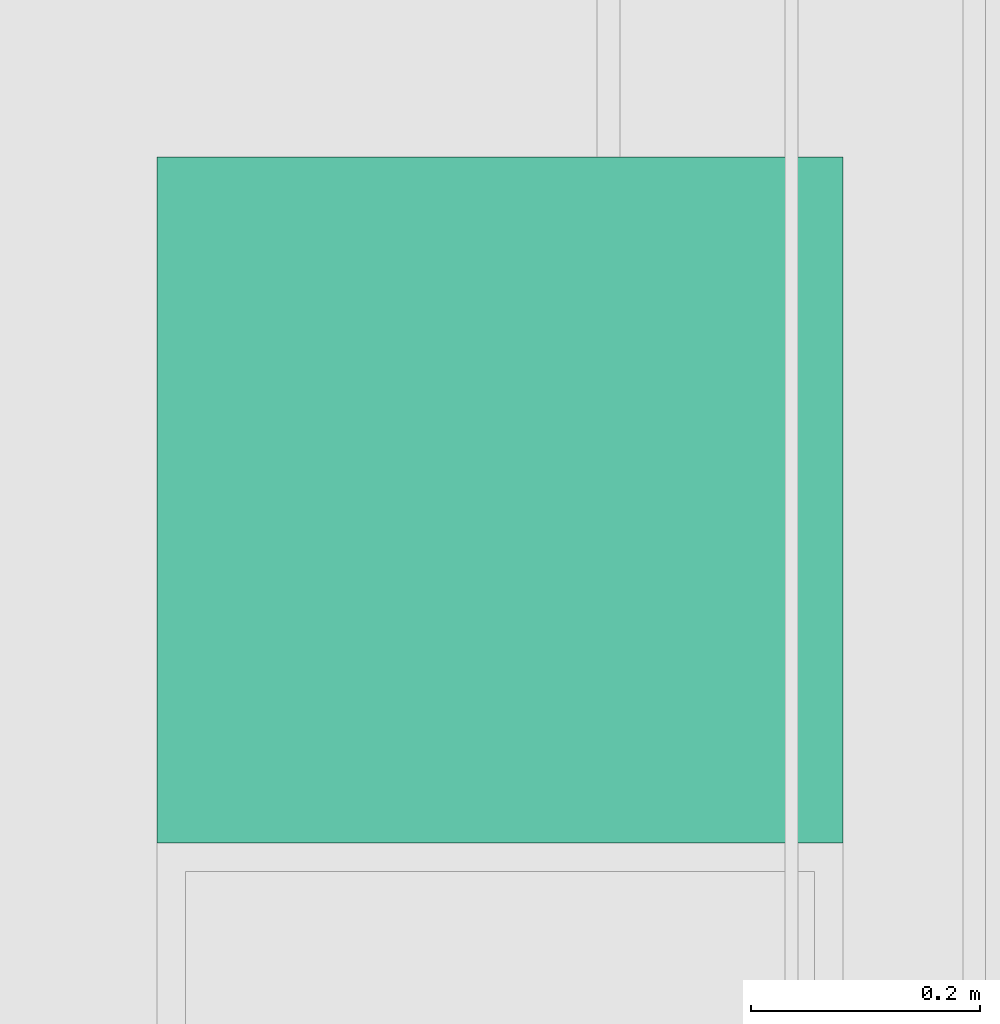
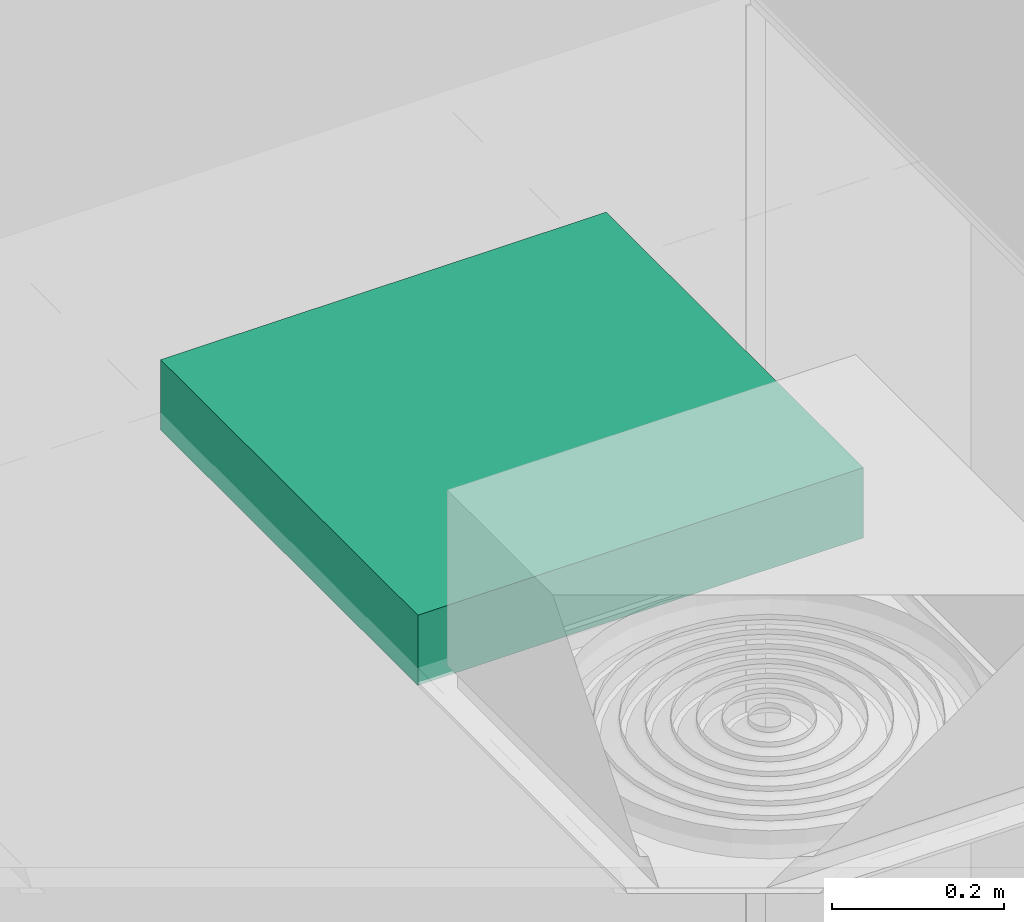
# One storey, part 279 of 347: 1 flow terminal.
"""IFC2X3 building model written with IfcOpenShell, lengths in millimetres."""

from ifc_helpers import new_model, entity, si_unit, converted_unit, derived_unit, money_unit, direction, frame, origin_with_axes, place, context, subcontext, project, spatial, open_shell, faceted_brep, surface_model, source, transform, mapped, type_object, type_shapes, element, save


model = new_model("IFC2X3")

# Units and contexts
model_context = context("Model", 3, precision=0.01, world=origin_with_axes(), true_north=direction((0.0, 1.0)))
plan_context = context("Plan", 3, precision=0.01, world=origin_with_axes(), true_north=direction((0.0, 1.0)))
body_context = subcontext(model_context, "Body", "Model", "MODEL_VIEW")
ifc_project = project(units=[si_unit("LENGTHUNIT", "METRE", prefix="MILLI"), si_unit("AREAUNIT", "SQUARE_METRE"), si_unit("VOLUMEUNIT", "CUBIC_METRE"), converted_unit("PLANEANGLEUNIT", "DEGREE", entity("IfcPlaneAngleMeasure", 0.0174532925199), si_unit("PLANEANGLEUNIT", "RADIAN"), dimensions=[0, 0, 0, 0, 0, 0, 0]), money_unit("EUR"), converted_unit("TIMEUNIT", "Year", entity("IfcTimeMeasure", 31556926.0), si_unit("TIMEUNIT", "SECOND"), dimensions=[0, 0, 1, 0, 0, 0, 0]), si_unit("MASSUNIT", "GRAM", prefix="KILO"), si_unit("THERMODYNAMICTEMPERATUREUNIT", "DEGREE_CELSIUS"), si_unit("LUMINOUSINTENSITYUNIT", "LUMEN"), si_unit("ENERGYUNIT", "JOULE", prefix="MEGA"), derived_unit("THERMALCONDUCTANCEUNIT", [(si_unit("POWERUNIT", "WATT"), 1), (si_unit("LENGTHUNIT", "METRE"), -1), (si_unit("THERMODYNAMICTEMPERATUREUNIT", "KELVIN"), -1)]), derived_unit("SPECIFICHEATCAPACITYUNIT", [(si_unit("ENERGYUNIT", "JOULE"), 1), (si_unit("MASSUNIT", "GRAM", prefix="KILO"), -1), (si_unit("THERMODYNAMICTEMPERATUREUNIT", "KELVIN"), -1)]), derived_unit("MASSDENSITYUNIT", [(si_unit("MASSUNIT", "GRAM", prefix="KILO"), 1), (si_unit("VOLUMEUNIT", "CUBIC_METRE"), -1)])], contexts=[model_context, plan_context])

# Site, building, storey
site_placement = place(None, origin_with_axes())
site = spatial("IfcSite", under=ifc_project, at=site_placement, Name="Site", CompositionType="ELEMENT")
building_placement = place(site_placement, origin_with_axes())
building = spatial("IfcBuilding", under=site, at=building_placement, Name="Naam gebouw", CompositionType="ELEMENT")
storey_placement = place(building_placement, origin_with_axes())
storey = spatial("IfcBuildingStorey", under=building, at=storey_placement, Name="begane grond", CompositionType="ELEMENT", Elevation=0.0)

# Flow terminal
lamp_type = type_object("IfcLampType", Name="TL plafond 25", PredefinedType="NOTDEFINED")
shared_shape = source(origin_with_axes(), body_context, "Body", "SurfaceModel", [
    faceted_brep([(0.0, 0.0, -100.0), (600.0, 0.0, -100.0), (600.0, 0.0, 0.0), (0.0, 0.0, 0.0), (0.0, 600.0, -100.0), (600.0, 600.0, -100.0), (40.0, 40.0, -100.0), (560.0, 40.0, -100.0), (560.0, 560.0, -100.0), (40.0, 560.0, -100.0), (600.0, 600.0, 0.0), (0.0, 600.0, 0.0), (40.0, 40.0, 0.0), (40.0, 560.0, 0.0), (560.0, 560.0, 0.0), (560.0, 40.0, 0.0)], [[[0, 1, 2, 3]], [[0, 4, 5, 1], [6, 7, 8, 9]], [[1, 5, 10, 2]], [[3, 2, 10, 11], [12, 13, 14, 15]], [[4, 0, 3, 11]], [[5, 4, 11, 10]], [[7, 6, 12, 15]], [[8, 7, 15, 14]], [[9, 8, 14, 13]], [[6, 9, 13, 12]]]),
    faceted_brep([(40.0, 40.0, -16.3333333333), (560.0, 40.0, -16.3333333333), (560.0, 40.0, 0.0), (40.0, 40.0, 0.0), (40.0, 560.0, -16.3333333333), (560.0, 560.0, -16.3333333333), (560.0, 560.0, 0.0), (40.0, 560.0, 0.0)], [[[0, 1, 2, 3]], [[0, 4, 5, 1]], [[1, 5, 6, 2]], [[3, 2, 6, 7]], [[4, 0, 3, 7]], [[5, 4, 7, 6]]]),
    surface_model("IfcShellBasedSurfaceModel", [(559.0, 41.0, -100.0), (40.0, 41.0, -100.0), (40.0, 559.0, -100.0), (559.0, 559.0, -100.0)], [open_shell([[[0, 1, 2, 3]]])]),
    faceted_brep([(40.0, 40.0, -100.0), (560.0, 40.0, -100.0), (560.0, 40.0, -60.0), (40.0, 40.0, -60.0), (40.0, 560.0, -100.0), (560.0, 560.0, -100.0), (41.0, 41.0, -100.0), (559.0, 41.0, -100.0), (559.0, 559.0, -100.0), (41.0, 559.0, -100.0), (560.0, 560.0, -60.0), (40.0, 560.0, -60.0), (41.0, 41.0, -60.0), (41.0, 559.0, -60.0), (559.0, 559.0, -60.0), (559.0, 41.0, -60.0)], [[[0, 1, 2, 3]], [[0, 4, 5, 1], [6, 7, 8, 9]], [[1, 5, 10, 2]], [[3, 2, 10, 11], [12, 13, 14, 15]], [[4, 0, 3, 11]], [[5, 4, 11, 10]], [[7, 6, 12, 15]], [[8, 7, 15, 14]], [[9, 8, 14, 13]], [[6, 9, 13, 12]]]),
    faceted_brep([(40.0, 144.0, -48.3333333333), (40.0, 149.740251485, -47.191526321), (560.0, 149.740251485, -47.191526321), (560.0, 144.0, -48.3333333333), (40.0, 138.259748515, -47.191526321), (40.0, 133.393398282, -43.9399350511), (40.0, 130.141807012, -39.0735848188), (40.0, 129.0, -33.3333333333), (40.0, 130.141807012, -27.5930818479), (40.0, 133.393398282, -22.7267316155), (40.0, 138.259748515, -19.4751403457), (40.0, 144.0, -18.3333333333), (40.0, 149.740251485, -19.4751403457), (40.0, 154.606601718, -22.7267316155), (40.0, 157.858192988, -27.5930818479), (40.0, 159.0, -33.3333333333), (40.0, 157.858192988, -39.0735848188), (40.0, 154.606601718, -43.9399350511), (40.0, 144.0, -46.3333333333), (40.0, 148.974884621, -45.343767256), (40.0, 153.192388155, -42.5257214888), (40.0, 156.010433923, -38.3082179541), (40.0, 157.0, -33.3333333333), (40.0, 156.010433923, -28.3584487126), (40.0, 153.192388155, -24.1409451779), (40.0, 148.974884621, -21.3228994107), (40.0, 144.0, -20.3333333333), (40.0, 139.025115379, -21.3228994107), (40.0, 134.807611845, -24.1409451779), (40.0, 131.989566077, -28.3584487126), (40.0, 131.0, -33.3333333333), (40.0, 131.989566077, -38.3082179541), (40.0, 134.807611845, -42.5257214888), (40.0, 139.025115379, -45.343767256), (560.0, 154.606601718, -43.9399350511), (560.0, 157.858192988, -39.0735848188), (560.0, 159.0, -33.3333333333), (560.0, 157.858192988, -27.5930818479), (560.0, 154.606601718, -22.7267316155), (560.0, 149.740251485, -19.4751403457), (560.0, 144.0, -18.3333333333), (560.0, 138.259748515, -19.4751403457), (560.0, 133.393398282, -22.7267316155), (560.0, 130.141807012, -27.5930818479), (560.0, 129.0, -33.3333333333), (560.0, 130.141807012, -39.0735848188), (560.0, 133.393398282, -43.9399350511), (560.0, 138.259748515, -47.191526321), (560.0, 144.0, -46.3333333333), (560.0, 139.025115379, -45.343767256), (560.0, 134.807611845, -42.5257214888), (560.0, 131.989566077, -38.3082179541), (560.0, 131.0, -33.3333333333), (560.0, 131.989566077, -28.3584487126), (560.0, 134.807611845, -24.1409451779), (560.0, 139.025115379, -21.3228994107), (560.0, 144.0, -20.3333333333), (560.0, 148.974884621, -21.3228994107), (560.0, 153.192388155, -24.1409451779), (560.0, 156.010433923, -28.3584487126), (560.0, 157.0, -33.3333333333), (560.0, 156.010433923, -38.3082179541), (560.0, 153.192388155, -42.5257214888), (560.0, 148.974884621, -45.343767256)], [[[0, 1, 2, 3]], [[0, 4, 5, 6, 7, 8, 9, 10, 11, 12, 13, 14, 15, 16, 17, 1], [18, 19, 20, 21, 22, 23, 24, 25, 26, 27, 28, 29, 30, 31, 32, 33]], [[1, 17, 34, 2]], [[3, 2, 34, 35, 36, 37, 38, 39, 40, 41, 42, 43, 44, 45, 46, 47], [48, 49, 50, 51, 52, 53, 54, 55, 56, 57, 58, 59, 60, 61, 62, 63]], [[4, 0, 3, 47]], [[5, 4, 47, 46]], [[6, 5, 46, 45]], [[7, 6, 45, 44]], [[8, 7, 44, 43]], [[9, 8, 43, 42]], [[10, 9, 42, 41]], [[11, 10, 41, 40]], [[12, 11, 40, 39]], [[13, 12, 39, 38]], [[14, 13, 38, 37]], [[15, 14, 37, 36]], [[16, 15, 36, 35]], [[17, 16, 35, 34]], [[19, 18, 48, 63]], [[20, 19, 63, 62]], [[21, 20, 62, 61]], [[22, 21, 61, 60]], [[23, 22, 60, 59]], [[24, 23, 59, 58]], [[25, 24, 58, 57]], [[26, 25, 57, 56]], [[27, 26, 56, 55]], [[28, 27, 55, 54]], [[29, 28, 54, 53]], [[30, 29, 53, 52]], [[31, 30, 52, 51]], [[32, 31, 51, 50]], [[33, 32, 50, 49]], [[18, 33, 49, 48]]]),
    faceted_brep([(40.0, 248.0, -48.3333333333), (40.0, 253.740251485, -47.191526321), (560.0, 253.740251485, -47.191526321), (560.0, 248.0, -48.3333333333), (40.0, 242.259748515, -47.191526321), (40.0, 237.393398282, -43.9399350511), (40.0, 234.141807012, -39.0735848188), (40.0, 233.0, -33.3333333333), (40.0, 234.141807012, -27.5930818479), (40.0, 237.393398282, -22.7267316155), (40.0, 242.259748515, -19.4751403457), (40.0, 248.0, -18.3333333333), (40.0, 253.740251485, -19.4751403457), (40.0, 258.606601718, -22.7267316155), (40.0, 261.858192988, -27.5930818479), (40.0, 263.0, -33.3333333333), (40.0, 261.858192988, -39.0735848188), (40.0, 258.606601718, -43.9399350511), (40.0, 248.0, -46.3333333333), (40.0, 252.974884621, -45.343767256), (40.0, 257.192388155, -42.5257214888), (40.0, 260.010433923, -38.3082179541), (40.0, 261.0, -33.3333333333), (40.0, 260.010433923, -28.3584487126), (40.0, 257.192388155, -24.1409451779), (40.0, 252.974884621, -21.3228994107), (40.0, 248.0, -20.3333333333), (40.0, 243.025115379, -21.3228994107), (40.0, 238.807611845, -24.1409451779), (40.0, 235.989566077, -28.3584487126), (40.0, 235.0, -33.3333333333), (40.0, 235.989566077, -38.3082179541), (40.0, 238.807611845, -42.5257214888), (40.0, 243.025115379, -45.343767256), (560.0, 258.606601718, -43.9399350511), (560.0, 261.858192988, -39.0735848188), (560.0, 263.0, -33.3333333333), (560.0, 261.858192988, -27.5930818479), (560.0, 258.606601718, -22.7267316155), (560.0, 253.740251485, -19.4751403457), (560.0, 248.0, -18.3333333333), (560.0, 242.259748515, -19.4751403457), (560.0, 237.393398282, -22.7267316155), (560.0, 234.141807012, -27.5930818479), (560.0, 233.0, -33.3333333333), (560.0, 234.141807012, -39.0735848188), (560.0, 237.393398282, -43.9399350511), (560.0, 242.259748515, -47.191526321), (560.0, 248.0, -46.3333333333), (560.0, 243.025115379, -45.343767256), (560.0, 238.807611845, -42.5257214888), (560.0, 235.989566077, -38.3082179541), (560.0, 235.0, -33.3333333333), (560.0, 235.989566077, -28.3584487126), (560.0, 238.807611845, -24.1409451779), (560.0, 243.025115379, -21.3228994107), (560.0, 248.0, -20.3333333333), (560.0, 252.974884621, -21.3228994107), (560.0, 257.192388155, -24.1409451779), (560.0, 260.010433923, -28.3584487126), (560.0, 261.0, -33.3333333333), (560.0, 260.010433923, -38.3082179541), (560.0, 257.192388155, -42.5257214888), (560.0, 252.974884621, -45.343767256)], [[[0, 1, 2, 3]], [[0, 4, 5, 6, 7, 8, 9, 10, 11, 12, 13, 14, 15, 16, 17, 1], [18, 19, 20, 21, 22, 23, 24, 25, 26, 27, 28, 29, 30, 31, 32, 33]], [[1, 17, 34, 2]], [[3, 2, 34, 35, 36, 37, 38, 39, 40, 41, 42, 43, 44, 45, 46, 47], [48, 49, 50, 51, 52, 53, 54, 55, 56, 57, 58, 59, 60, 61, 62, 63]], [[4, 0, 3, 47]], [[5, 4, 47, 46]], [[6, 5, 46, 45]], [[7, 6, 45, 44]], [[8, 7, 44, 43]], [[9, 8, 43, 42]], [[10, 9, 42, 41]], [[11, 10, 41, 40]], [[12, 11, 40, 39]], [[13, 12, 39, 38]], [[14, 13, 38, 37]], [[15, 14, 37, 36]], [[16, 15, 36, 35]], [[17, 16, 35, 34]], [[19, 18, 48, 63]], [[20, 19, 63, 62]], [[21, 20, 62, 61]], [[22, 21, 61, 60]], [[23, 22, 60, 59]], [[24, 23, 59, 58]], [[25, 24, 58, 57]], [[26, 25, 57, 56]], [[27, 26, 56, 55]], [[28, 27, 55, 54]], [[29, 28, 54, 53]], [[30, 29, 53, 52]], [[31, 30, 52, 51]], [[32, 31, 51, 50]], [[33, 32, 50, 49]], [[18, 33, 49, 48]]]),
    faceted_brep([(40.0, 352.0, -48.3333333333), (40.0, 357.740251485, -47.191526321), (560.0, 357.740251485, -47.191526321), (560.0, 352.0, -48.3333333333), (40.0, 346.259748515, -47.191526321), (40.0, 341.393398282, -43.9399350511), (40.0, 338.141807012, -39.0735848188), (40.0, 337.0, -33.3333333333), (40.0, 338.141807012, -27.5930818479), (40.0, 341.393398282, -22.7267316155), (40.0, 346.259748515, -19.4751403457), (40.0, 352.0, -18.3333333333), (40.0, 357.740251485, -19.4751403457), (40.0, 362.606601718, -22.7267316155), (40.0, 365.858192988, -27.5930818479), (40.0, 367.0, -33.3333333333), (40.0, 365.858192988, -39.0735848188), (40.0, 362.606601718, -43.9399350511), (40.0, 352.0, -46.3333333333), (40.0, 356.974884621, -45.343767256), (40.0, 361.192388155, -42.5257214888), (40.0, 364.010433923, -38.3082179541), (40.0, 365.0, -33.3333333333), (40.0, 364.010433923, -28.3584487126), (40.0, 361.192388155, -24.1409451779), (40.0, 356.974884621, -21.3228994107), (40.0, 352.0, -20.3333333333), (40.0, 347.025115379, -21.3228994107), (40.0, 342.807611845, -24.1409451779), (40.0, 339.989566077, -28.3584487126), (40.0, 339.0, -33.3333333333), (40.0, 339.989566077, -38.3082179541), (40.0, 342.807611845, -42.5257214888), (40.0, 347.025115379, -45.343767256), (560.0, 362.606601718, -43.9399350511), (560.0, 365.858192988, -39.0735848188), (560.0, 367.0, -33.3333333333), (560.0, 365.858192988, -27.5930818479), (560.0, 362.606601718, -22.7267316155), (560.0, 357.740251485, -19.4751403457), (560.0, 352.0, -18.3333333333), (560.0, 346.259748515, -19.4751403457), (560.0, 341.393398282, -22.7267316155), (560.0, 338.141807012, -27.5930818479), (560.0, 337.0, -33.3333333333), (560.0, 338.141807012, -39.0735848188), (560.0, 341.393398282, -43.9399350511), (560.0, 346.259748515, -47.191526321), (560.0, 352.0, -46.3333333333), (560.0, 347.025115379, -45.343767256), (560.0, 342.807611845, -42.5257214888), (560.0, 339.989566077, -38.3082179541), (560.0, 339.0, -33.3333333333), (560.0, 339.989566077, -28.3584487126), (560.0, 342.807611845, -24.1409451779), (560.0, 347.025115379, -21.3228994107), (560.0, 352.0, -20.3333333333), (560.0, 356.974884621, -21.3228994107), (560.0, 361.192388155, -24.1409451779), (560.0, 364.010433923, -28.3584487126), (560.0, 365.0, -33.3333333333), (560.0, 364.010433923, -38.3082179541), (560.0, 361.192388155, -42.5257214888), (560.0, 356.974884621, -45.343767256)], [[[0, 1, 2, 3]], [[0, 4, 5, 6, 7, 8, 9, 10, 11, 12, 13, 14, 15, 16, 17, 1], [18, 19, 20, 21, 22, 23, 24, 25, 26, 27, 28, 29, 30, 31, 32, 33]], [[1, 17, 34, 2]], [[3, 2, 34, 35, 36, 37, 38, 39, 40, 41, 42, 43, 44, 45, 46, 47], [48, 49, 50, 51, 52, 53, 54, 55, 56, 57, 58, 59, 60, 61, 62, 63]], [[4, 0, 3, 47]], [[5, 4, 47, 46]], [[6, 5, 46, 45]], [[7, 6, 45, 44]], [[8, 7, 44, 43]], [[9, 8, 43, 42]], [[10, 9, 42, 41]], [[11, 10, 41, 40]], [[12, 11, 40, 39]], [[13, 12, 39, 38]], [[14, 13, 38, 37]], [[15, 14, 37, 36]], [[16, 15, 36, 35]], [[17, 16, 35, 34]], [[19, 18, 48, 63]], [[20, 19, 63, 62]], [[21, 20, 62, 61]], [[22, 21, 61, 60]], [[23, 22, 60, 59]], [[24, 23, 59, 58]], [[25, 24, 58, 57]], [[26, 25, 57, 56]], [[27, 26, 56, 55]], [[28, 27, 55, 54]], [[29, 28, 54, 53]], [[30, 29, 53, 52]], [[31, 30, 52, 51]], [[32, 31, 51, 50]], [[33, 32, 50, 49]], [[18, 33, 49, 48]]]),
    faceted_brep([(40.0, 456.0, -48.3333333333), (40.0, 461.740251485, -47.191526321), (560.0, 461.740251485, -47.191526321), (560.0, 456.0, -48.3333333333), (40.0, 450.259748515, -47.191526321), (40.0, 445.393398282, -43.9399350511), (40.0, 442.141807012, -39.0735848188), (40.0, 441.0, -33.3333333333), (40.0, 442.141807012, -27.5930818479), (40.0, 445.393398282, -22.7267316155), (40.0, 450.259748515, -19.4751403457), (40.0, 456.0, -18.3333333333), (40.0, 461.740251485, -19.4751403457), (40.0, 466.606601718, -22.7267316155), (40.0, 469.858192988, -27.5930818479), (40.0, 471.0, -33.3333333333), (40.0, 469.858192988, -39.0735848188), (40.0, 466.606601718, -43.9399350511), (40.0, 456.0, -46.3333333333), (40.0, 460.974884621, -45.343767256), (40.0, 465.192388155, -42.5257214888), (40.0, 468.010433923, -38.3082179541), (40.0, 469.0, -33.3333333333), (40.0, 468.010433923, -28.3584487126), (40.0, 465.192388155, -24.1409451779), (40.0, 460.974884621, -21.3228994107), (40.0, 456.0, -20.3333333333), (40.0, 451.025115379, -21.3228994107), (40.0, 446.807611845, -24.1409451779), (40.0, 443.989566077, -28.3584487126), (40.0, 443.0, -33.3333333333), (40.0, 443.989566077, -38.3082179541), (40.0, 446.807611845, -42.5257214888), (40.0, 451.025115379, -45.343767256), (560.0, 466.606601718, -43.9399350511), (560.0, 469.858192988, -39.0735848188), (560.0, 471.0, -33.3333333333), (560.0, 469.858192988, -27.5930818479), (560.0, 466.606601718, -22.7267316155), (560.0, 461.740251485, -19.4751403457), (560.0, 456.0, -18.3333333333), (560.0, 450.259748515, -19.4751403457), (560.0, 445.393398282, -22.7267316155), (560.0, 442.141807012, -27.5930818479), (560.0, 441.0, -33.3333333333), (560.0, 442.141807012, -39.0735848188), (560.0, 445.393398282, -43.9399350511), (560.0, 450.259748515, -47.191526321), (560.0, 456.0, -46.3333333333), (560.0, 451.025115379, -45.343767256), (560.0, 446.807611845, -42.5257214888), (560.0, 443.989566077, -38.3082179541), (560.0, 443.0, -33.3333333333), (560.0, 443.989566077, -28.3584487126), (560.0, 446.807611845, -24.1409451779), (560.0, 451.025115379, -21.3228994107), (560.0, 456.0, -20.3333333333), (560.0, 460.974884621, -21.3228994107), (560.0, 465.192388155, -24.1409451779), (560.0, 468.010433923, -28.3584487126), (560.0, 469.0, -33.3333333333), (560.0, 468.010433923, -38.3082179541), (560.0, 465.192388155, -42.5257214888), (560.0, 460.974884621, -45.343767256)], [[[0, 1, 2, 3]], [[0, 4, 5, 6, 7, 8, 9, 10, 11, 12, 13, 14, 15, 16, 17, 1], [18, 19, 20, 21, 22, 23, 24, 25, 26, 27, 28, 29, 30, 31, 32, 33]], [[1, 17, 34, 2]], [[3, 2, 34, 35, 36, 37, 38, 39, 40, 41, 42, 43, 44, 45, 46, 47], [48, 49, 50, 51, 52, 53, 54, 55, 56, 57, 58, 59, 60, 61, 62, 63]], [[4, 0, 3, 47]], [[5, 4, 47, 46]], [[6, 5, 46, 45]], [[7, 6, 45, 44]], [[8, 7, 44, 43]], [[9, 8, 43, 42]], [[10, 9, 42, 41]], [[11, 10, 41, 40]], [[12, 11, 40, 39]], [[13, 12, 39, 38]], [[14, 13, 38, 37]], [[15, 14, 37, 36]], [[16, 15, 36, 35]], [[17, 16, 35, 34]], [[19, 18, 48, 63]], [[20, 19, 63, 62]], [[21, 20, 62, 61]], [[22, 21, 61, 60]], [[23, 22, 60, 59]], [[24, 23, 59, 58]], [[25, 24, 58, 57]], [[26, 25, 57, 56]], [[27, 26, 56, 55]], [[28, 27, 55, 54]], [[29, 28, 54, 53]], [[30, 29, 53, 52]], [[31, 30, 52, 51]], [[32, 31, 51, 50]], [[33, 32, 50, 49]], [[18, 33, 49, 48]]]),
])
type_shapes(lamp_type, [shared_shape])
flow_terminal_placement = place(storey_placement, frame((35050.0, 40087.5, 2695.0), z_axis=(0.0, 0.0, 1.0), x_axis=(1.0, 0.0, 0.0)))
element("IfcFlowTerminal", 1, at=flow_terminal_placement, inside=storey, type_object=lamp_type, Name="63_Lamp-x", ObjectType="Lamp", context=body_context, shape_type="MappedRepresentation", body=[
    mapped(shared_shape, transform((0.0, 0.0, 0.0))),
])

save(model, "model.ifc")
